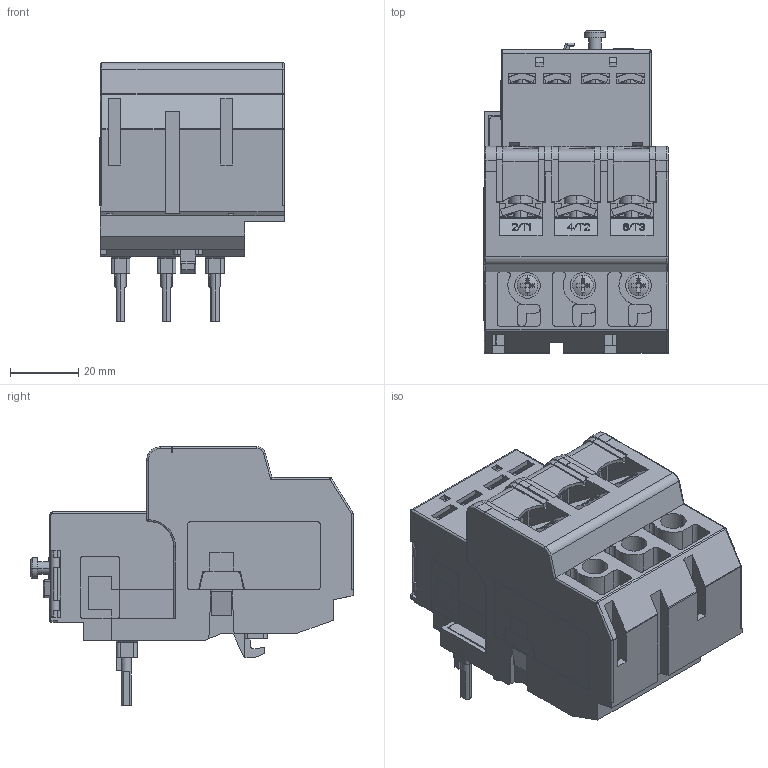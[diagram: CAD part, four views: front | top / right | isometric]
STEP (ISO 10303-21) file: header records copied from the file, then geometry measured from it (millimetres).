
FILE_DESCRIPTION (( 'STEP AP214' ), '1' );
FILE_NAME ('TGR1-38.STEP', '2025-12-22T07:51:24', ( '' ), ( '' ), 'SwSTEP 2.0', 'SolidWorks 2024', '' );
FILE_SCHEMA (( 'AUTOMOTIVE_DESIGN' ));
Products named in the file (3): TGR1-38.stp; TGR1-38; 2TZD_331_1005_SW0001_1.stp
Assembly tree (2 placements, depth 3):
  TGR1-38
    TGR1-38.stp
      2TZD_331_1005_SW0001_1.stp
Bounding box: 54.1 x 94.55 x 75.85 mm (x, y, z)
Volume: 154699.2 mm3; surface area: 58081.4 mm2
Topology: 1 solids, 1 shells, 4130 faces, 11710 edges, 7655 vertices
Faces by surface type: plane 3230, cylinder 535, bspline 169, cone 85, sphere 59, torus 52
Entity records: 137864 total; most frequent: CARTESIAN_POINT 31171, ORIENTED_EDGE 23408, DIRECTION 20301, EDGE_CURVE 11704, VECTOR 9673, LINE 9673, VERTEX_POINT 7655, AXIS2_PLACEMENT_3D 5314
